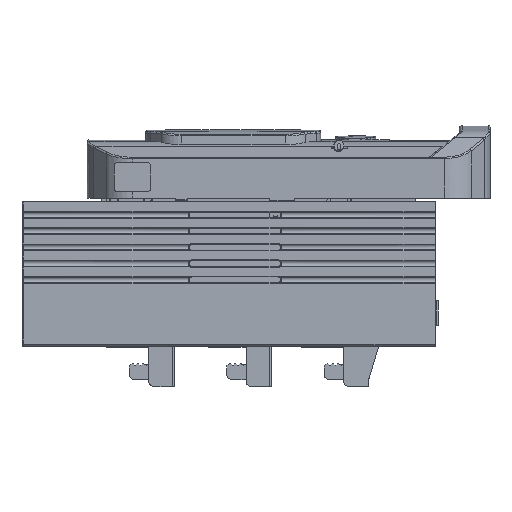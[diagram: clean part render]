
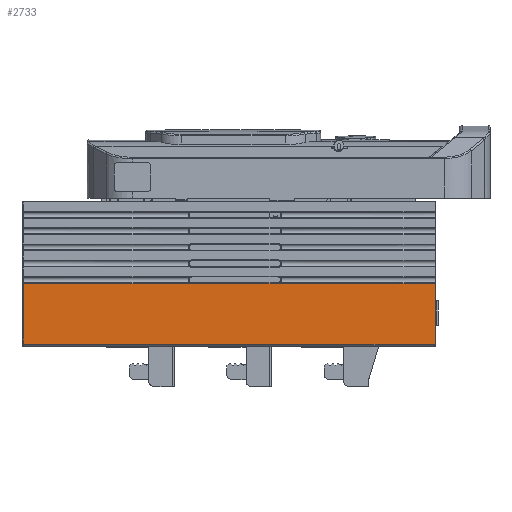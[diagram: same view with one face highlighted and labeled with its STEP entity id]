
A CAD part, front view. The second image highlights one B-rep face of the part: STEP entity #2733.
In plain terms, the highlighted planar face has unit normal (0, -1, 0).
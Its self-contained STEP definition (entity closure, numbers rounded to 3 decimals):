
#2733=ADVANCED_FACE('',(#4538),#46430,.T.);
#4538=FACE_OUTER_BOUND('',#6471,.T.);
#6471=EDGE_LOOP('',(#16025,#16026,#16027,#16028,#16029,#16030,#16031,#16032));
#16025=ORIENTED_EDGE('',*,*,#26052,.F.);
#16026=ORIENTED_EDGE('',*,*,#26053,.F.);
#16027=ORIENTED_EDGE('',*,*,#26054,.F.);
#16028=ORIENTED_EDGE('',*,*,#26049,.T.);
#16029=ORIENTED_EDGE('',*,*,#26036,.T.);
#16030=ORIENTED_EDGE('',*,*,#26035,.T.);
#16031=ORIENTED_EDGE('',*,*,#25992,.T.);
#16032=ORIENTED_EDGE('',*,*,#25997,.T.);
#25992=EDGE_CURVE('',#43846,#43850,#36809,.T.);
#25997=EDGE_CURVE('',#43850,#43853,#36813,.T.);
#26035=EDGE_CURVE('',#43879,#43846,#36842,.T.);
#26036=EDGE_CURVE('',#43880,#43879,#36843,.T.);
#26049=EDGE_CURVE('',#43889,#43880,#36853,.T.);
#26052=EDGE_CURVE('',#43890,#43853,#36855,.T.);
#26053=EDGE_CURVE('',#43891,#43890,#36856,.T.);
#26054=EDGE_CURVE('',#43889,#43891,#36857,.T.);
#36809=B_SPLINE_CURVE_WITH_KNOTS('',3,(#100180,#100181,#100182,#100183),
 .UNSPECIFIED.,.F.,.F.,(4,4),(0.,1.),.UNSPECIFIED.);
#36813=B_SPLINE_CURVE_WITH_KNOTS('',1,(#100199,#100200),.UNSPECIFIED.,.F.,
 .F.,(2,2),(0.,102.7),.UNSPECIFIED.);
#36842=B_SPLINE_CURVE_WITH_KNOTS('',1,(#100675,#100676),.UNSPECIFIED.,.F.,
 .F.,(2,2),(0.,53.),.UNSPECIFIED.);
#36843=B_SPLINE_CURVE_WITH_KNOTS('',3,(#100677,#100678,#100679,#100680),
 .UNSPECIFIED.,.F.,.F.,(4,4),(0.,1.),.UNSPECIFIED.);
#36853=B_SPLINE_CURVE_WITH_KNOTS('',3,(#100896,#100897,#100898,#100899),
 .UNSPECIFIED.,.F.,.F.,(4,4),(0.,1.),.UNSPECIFIED.);
#36855=B_SPLINE_CURVE_WITH_KNOTS('',1,(#100907,#100908),.UNSPECIFIED.,.F.,
 .F.,(2,2),(0.,37.534),.UNSPECIFIED.);
#36856=B_SPLINE_CURVE_WITH_KNOTS('',1,(#100909,#100910),.UNSPECIFIED.,.F.,
 .F.,(2,2),(0.,253.4),.UNSPECIFIED.);
#36857=B_SPLINE_CURVE_WITH_KNOTS('',1,(#100911,#100912),.UNSPECIFIED.,.F.,
 .F.,(2,2),(0.,37.534),.UNSPECIFIED.);
#43846=VERTEX_POINT('',#94719);
#43850=VERTEX_POINT('',#94723);
#43853=VERTEX_POINT('',#94726);
#43879=VERTEX_POINT('',#94752);
#43880=VERTEX_POINT('',#94753);
#43889=VERTEX_POINT('',#94762);
#43890=VERTEX_POINT('',#94763);
#43891=VERTEX_POINT('',#94764);
#46430=PLANE('',#48938);
#48938=AXIS2_PLACEMENT_3D('',#87646,#53232,$);
#53232=DIRECTION('',(0.,-1.,0.));
#87646=CARTESIAN_POINT('',(-137.308,-105.5,-57.551));
#94719=CARTESIAN_POINT('',(-33.608,-105.5,-20.251));
#94723=CARTESIAN_POINT('',(-34.608,-105.5,-20.017));
#94726=CARTESIAN_POINT('',(-137.308,-105.5,-20.017));
#94752=CARTESIAN_POINT('',(19.392,-105.5,-20.251));
#94753=CARTESIAN_POINT('',(20.392,-105.5,-20.017));
#94762=CARTESIAN_POINT('',(116.092,-105.5,-20.017));
#94763=CARTESIAN_POINT('',(-137.308,-105.5,-57.551));
#94764=CARTESIAN_POINT('',(116.092,-105.5,-57.551));
#100180=CARTESIAN_POINT('',(-33.608,-105.5,-20.251));
#100181=CARTESIAN_POINT('',(-33.955,-105.5,-20.251));
#100182=CARTESIAN_POINT('',(-34.297,-105.5,-20.171));
#100183=CARTESIAN_POINT('',(-34.608,-105.5,-20.017));
#100199=CARTESIAN_POINT('',(-34.608,-105.5,-20.017));
#100200=CARTESIAN_POINT('',(-137.308,-105.5,-20.017));
#100675=CARTESIAN_POINT('',(19.392,-105.5,-20.251));
#100676=CARTESIAN_POINT('',(-33.608,-105.5,-20.251));
#100677=CARTESIAN_POINT('',(20.392,-105.5,-20.017));
#100678=CARTESIAN_POINT('',(20.081,-105.5,-20.171));
#100679=CARTESIAN_POINT('',(19.739,-105.5,-20.251));
#100680=CARTESIAN_POINT('',(19.392,-105.5,-20.251));
#100896=CARTESIAN_POINT('',(116.092,-105.5,-20.017));
#100897=CARTESIAN_POINT('',(84.192,-105.5,-20.017));
#100898=CARTESIAN_POINT('',(52.292,-105.5,-20.017));
#100899=CARTESIAN_POINT('',(20.392,-105.5,-20.017));
#100907=CARTESIAN_POINT('',(-137.308,-105.5,-57.551));
#100908=CARTESIAN_POINT('',(-137.308,-105.5,-20.017));
#100909=CARTESIAN_POINT('',(116.092,-105.5,-57.551));
#100910=CARTESIAN_POINT('',(-137.308,-105.5,-57.551));
#100911=CARTESIAN_POINT('',(116.092,-105.5,-20.017));
#100912=CARTESIAN_POINT('',(116.092,-105.5,-57.551));
